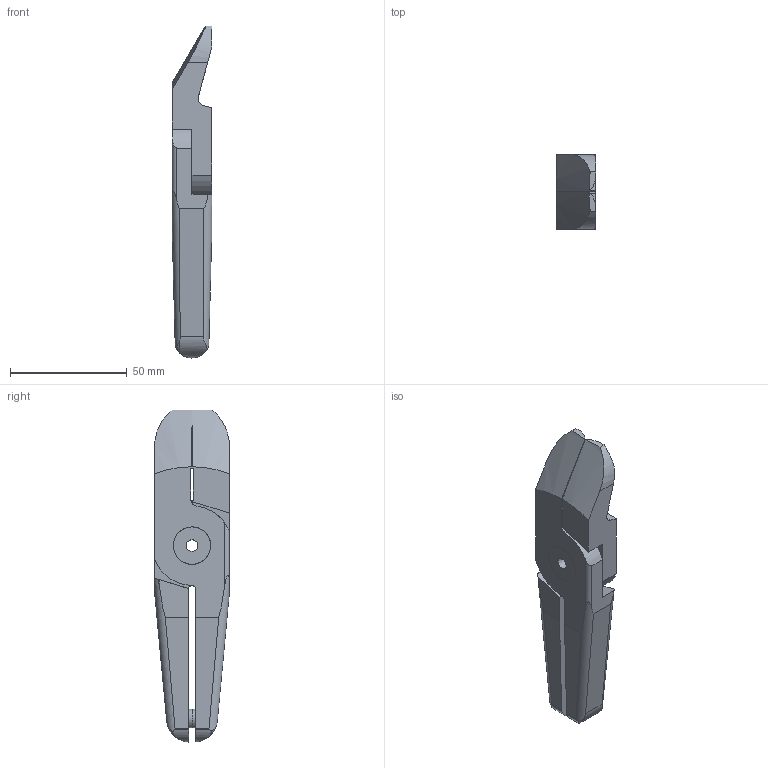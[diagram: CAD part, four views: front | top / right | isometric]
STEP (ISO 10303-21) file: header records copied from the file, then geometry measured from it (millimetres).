
FILE_DESCRIPTION (( 'STEP AP214' ), '1' );
FILE_NAME ('0613.STEP', '2012-03-27T19:41:08', ( 'User' ), ( 'EMI' ), 'SwSTEP 2.0', 'SolidWorks 2009', '' );
FILE_SCHEMA (( 'AUTOMOTIVE_DESIGN' ));
Length unit declared in the file: millimetre
Products named in the file (1): 0613
Bounding box: 16.9 x 32 x 142 mm (x, y, z)
Volume: 49557.4 mm3; surface area: 19080.7 mm2
Topology: 3 solids, 3 shells, 111 faces, 305 edges, 204 vertices
Faces by surface type: cylinder 54, plane 52, bspline 5
Entity records: 4628 total; most frequent: CARTESIAN_POINT 1900, ORIENTED_EDGE 610, DIRECTION 507, EDGE_CURVE 305, VERTEX_POINT 204, AXIS2_PLACEMENT_3D 181, LINE 145, VECTOR 145
